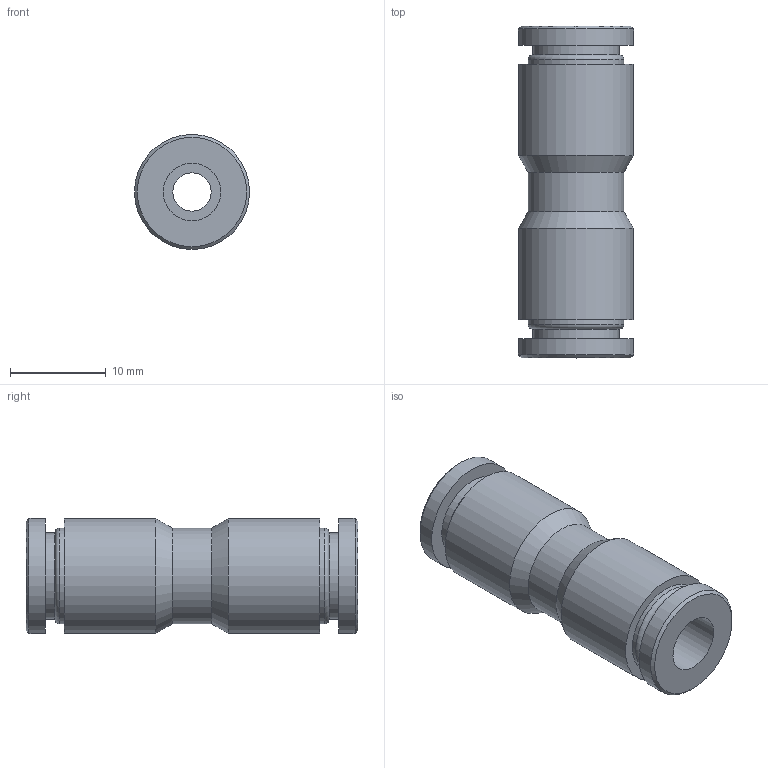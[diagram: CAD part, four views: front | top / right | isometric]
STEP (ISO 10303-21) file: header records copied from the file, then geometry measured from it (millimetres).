
FILE_DESCRIPTION(/* description */ (''),/* implementation_level */ '2;1');
FILE_NAME(/* name */ 'LXH10 0606 00.stp',/* time_stamp */ '2026-04-29T14:30:55+02:00',/* author */ ('freju'),/* organization */ (''),/* preprocessor_version */ 'ST-DEVELOPER v20.1',/* originating_system */ 'Autodesk Inventor 2026',/* authorisation */ '');
FILE_SCHEMA (('AUTOMOTIVE_DESIGN { 1 0 10303 214 3 1 1 }'));
Length unit declared in the file: millimetre
Products named in the file (1): LXH10 0606 00
Bounding box: 12 x 34.6 x 12 mm (x, y, z)
Volume: 2583.8 mm3; surface area: 2267.3 mm2
Topology: 1 solids, 1 shells, 26 faces, 50 edges, 32 vertices
Faces by surface type: cylinder 12, plane 8, cone 4, torus 2
Full cylindrical faces by diameter (mm): 4 x1, 6 x2, 9 x2, 10 x3, 12 x4
Entity records: 723 total; most frequent: DIRECTION 138, CARTESIAN_POINT 109, ORIENTED_EDGE 100, AXIS2_PLACEMENT_3D 61, EDGE_CURVE 50, EDGE_LOOP 34, CIRCLE 34, VERTEX_POINT 32
